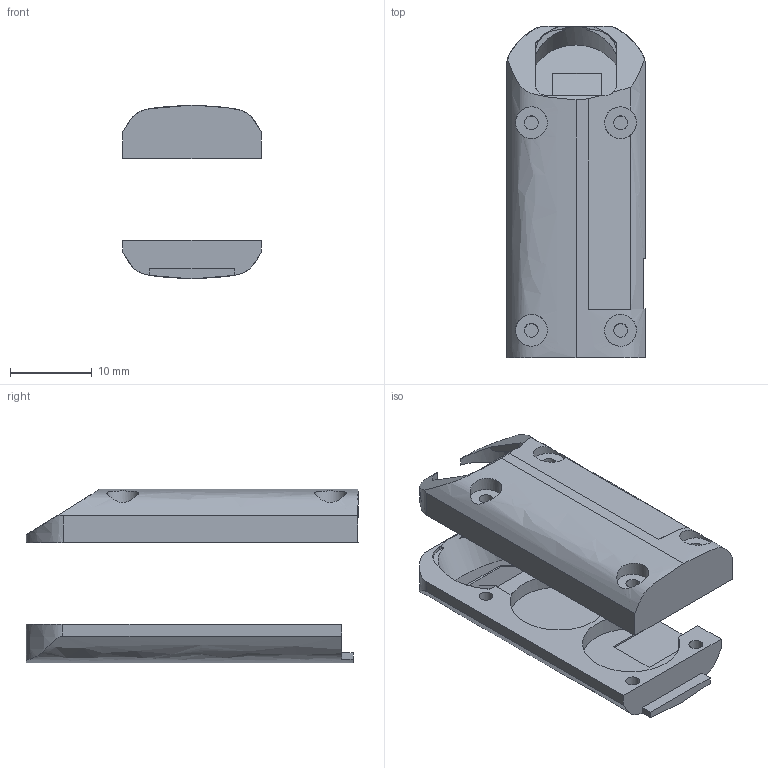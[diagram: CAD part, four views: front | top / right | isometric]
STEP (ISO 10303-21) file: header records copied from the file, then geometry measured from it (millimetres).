
FILE_DESCRIPTION(/* description */ (''),/* implementation_level */ '2;1');
FILE_NAME(/* name */ 'K battery v22.step',/* time_stamp */ '2025-11-16T19:11:47-08:00',/* author */ (''),/* organization */ (''),/* preprocessor_version */ 'ST-DEVELOPER v20.1',/* originating_system */ 'Autodesk Translation Framework v14.17.0.0',/* authorisation */ '');
FILE_SCHEMA (('AUTOMOTIVE_DESIGN { 1 0 10303 214 3 1 1 }'));
Length unit declared in the file: millimetre
Products named in the file (1): K battery
Bounding box: 16.9 x 40.6 x 21.25 mm (x, y, z)
Volume: 4146.5 mm3; surface area: 4081.8 mm2
Topology: 2 solids, 2 shells, 101 faces, 267 edges, 178 vertices
Faces by surface type: plane 69, cylinder 22, bspline 10
Full cylindrical faces by diameter (mm): 1.7 x8, 3.9 x4, 11.9 x1
Entity records: 3823 total; most frequent: CARTESIAN_POINT 1331, ORIENTED_EDGE 534, DIRECTION 465, EDGE_CURVE 267, VERTEX_POINT 178, AXIS2_PLACEMENT_3D 159, LINE 147, VECTOR 147
